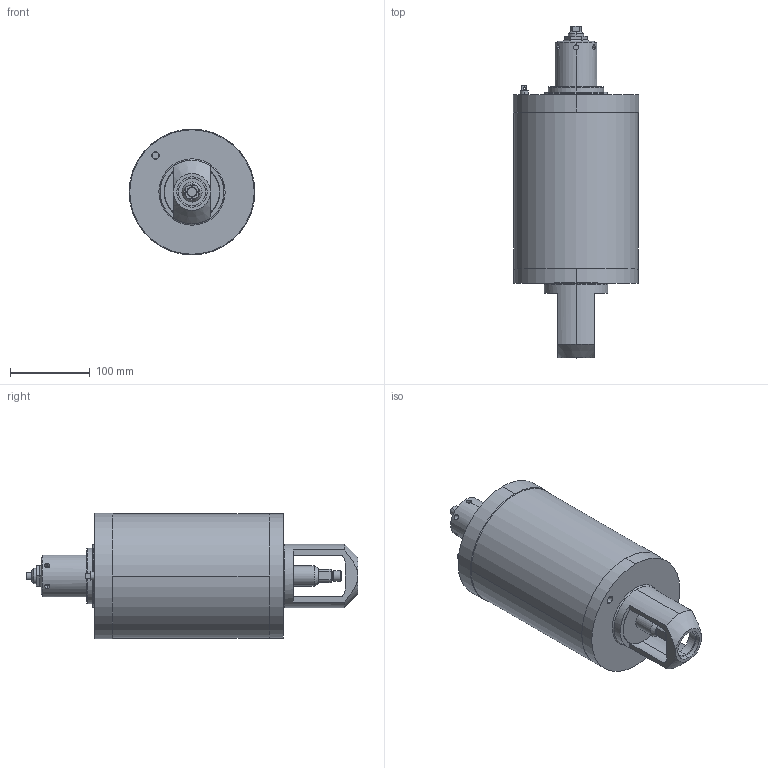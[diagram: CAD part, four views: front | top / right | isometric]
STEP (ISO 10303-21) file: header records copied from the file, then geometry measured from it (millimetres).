
FILE_DESCRIPTION (( 'STEP AP203' ), '1' );
FILE_NAME ('6in air to raise relief.STEP', '2010-08-30T19:34:18', ( 'kburns' ), ( 'Microsoft' ), 'SwSTEP 2.0', 'SolidWorks 2009', '' );
FILE_SCHEMA (( 'CONFIG_CONTROL_DESIGN' ));
Length unit declared in the file: millimetre
Products named in the file (1): 6in air to raise relief
Bounding box: 158.14 x 417.5 x 158.14 mm (x, y, z)
Volume: 4885302.8 mm3; surface area: 199517.6 mm2
Topology: 1 solids, 1 shells, 152 faces, 358 edges, 227 vertices
Faces by surface type: cylinder 58, plane 57, cone 26, bspline 11
Entity records: 5924 total; most frequent: CARTESIAN_POINT 2344, DIRECTION 750, ORIENTED_EDGE 716, EDGE_CURVE 358, AXIS2_PLACEMENT_3D 299, VERTEX_POINT 227, EDGE_LOOP 177, CIRCLE 157
